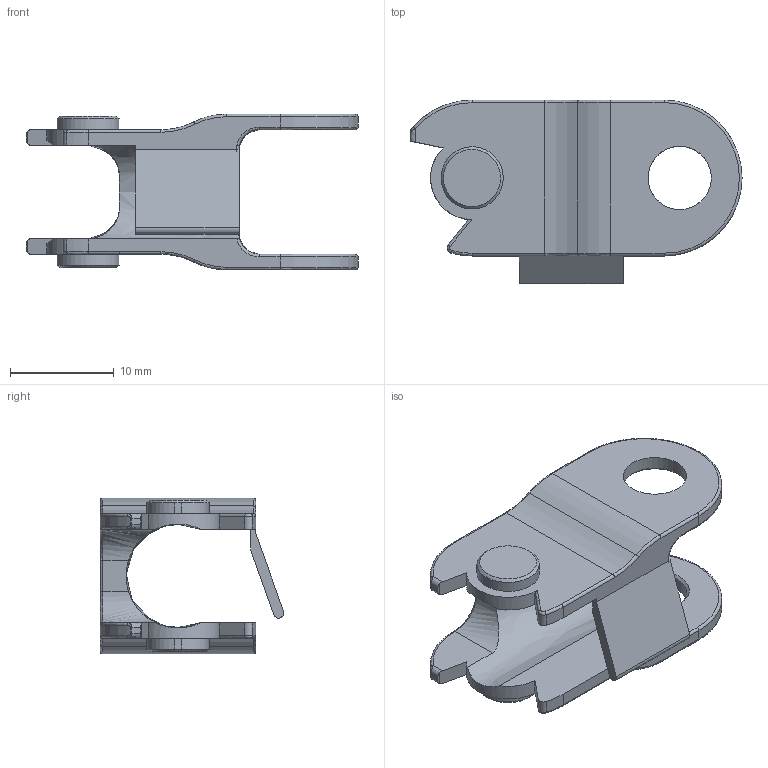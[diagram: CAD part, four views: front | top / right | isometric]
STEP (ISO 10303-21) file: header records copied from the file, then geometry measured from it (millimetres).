
FILE_DESCRIPTION((''),'2;1');
FILE_NAME('C:\Uebbing\PARAMETERKETTEN\KOLIBRI\Kol_15_015_4\Kol_15_015_4.stp','2011-11-02T10:59:09',('Uebbing'),(''),'Autodesk Inventor 10','Autodesk Inventor 10','');
FILE_SCHEMA(('AUTOMOTIVE_DESIGN { 1 0 10303 214 1 1 1 1 }'));
Length unit declared in the file: millimetre
Products named in the file (1): Kol_15_015_4
Bounding box: 31.98 x 17.7 x 15 mm (x, y, z)
Volume: 1832.7 mm3; surface area: 2292.3 mm2
Topology: 1 solids, 1 shells, 120 faces, 294 edges, 178 vertices
Faces by surface type: bspline 120
Entity records: 5558 total; most frequent: CARTESIAN_POINT 3141, ORIENTED_EDGE 570, DIRECTION 394, EDGE_CURVE 285, VERTEX_POINT 175, AXIS2_PLACEMENT_3D 133, EDGE_LOOP 132, CIRCLE 128
